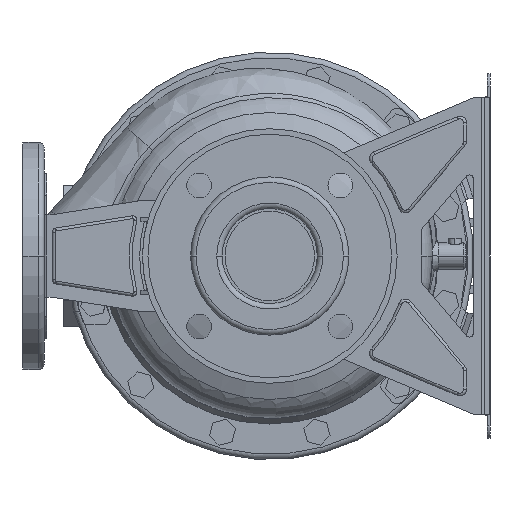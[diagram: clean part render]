
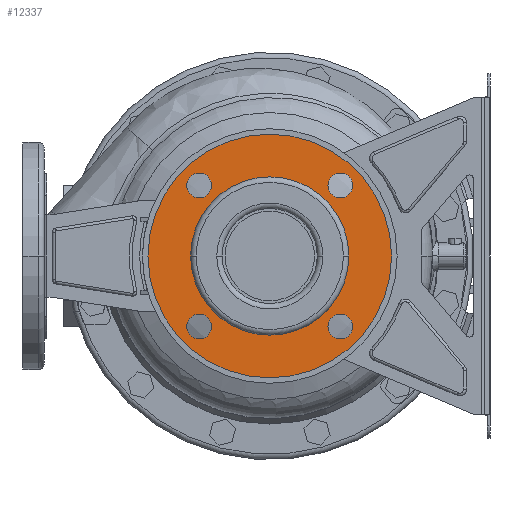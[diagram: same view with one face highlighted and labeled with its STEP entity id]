
A CAD part, left-side view. The second image highlights one B-rep face of the part: STEP entity #12337.
In plain terms, the highlighted planar face has unit normal (-1, 0, 0).
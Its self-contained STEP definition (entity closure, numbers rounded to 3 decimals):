
#11670=CARTESIAN_POINT('',(12.,0.,0.));
#11671=DIRECTION('',(-1.,0.,0.));
#11672=DIRECTION('',(0.,1.,0.));
#11673=AXIS2_PLACEMENT_3D('',#11670,#11671,#11672);
#11678=CARTESIAN_POINT('',(12.,0.,0.));
#11679=DIRECTION('',(1.,0.,0.));
#11680=DIRECTION('',(0.,1.,0.));
#11681=AXIS2_PLACEMENT_3D('',#11678,#11679,#11680);
#11686=CARTESIAN_POINT('',(12.,-51.265,51.265));
#11687=DIRECTION('',(1.,0.,0.));
#11688=DIRECTION('',(0.,1.,0.));
#11689=AXIS2_PLACEMENT_3D('',#11686,#11687,#11688);
#11694=CARTESIAN_POINT('',(12.,-51.265,51.265));
#11695=DIRECTION('',(1.,0.,0.));
#11696=DIRECTION('',(0.,-1.,0.));
#11697=AXIS2_PLACEMENT_3D('',#11694,#11695,#11696);
#11702=CARTESIAN_POINT('',(12.,-51.265,-51.265));
#11703=DIRECTION('',(1.,0.,0.));
#11704=DIRECTION('',(0.,0.,1.));
#11705=AXIS2_PLACEMENT_3D('',#11702,#11703,#11704);
#11710=CARTESIAN_POINT('',(12.,-51.265,-51.265));
#11711=DIRECTION('',(1.,0.,0.));
#11712=DIRECTION('',(0.,0.,-1.));
#11713=AXIS2_PLACEMENT_3D('',#11710,#11711,#11712);
#11718=CARTESIAN_POINT('',(12.,51.265,-51.265));
#11719=DIRECTION('',(1.,0.,0.));
#11720=DIRECTION('',(0.,-1.,0.));
#11721=AXIS2_PLACEMENT_3D('',#11718,#11719,#11720);
#11726=CARTESIAN_POINT('',(12.,51.265,-51.265));
#11727=DIRECTION('',(1.,0.,0.));
#11728=DIRECTION('',(0.,1.,0.));
#11729=AXIS2_PLACEMENT_3D('',#11726,#11727,#11728);
#11734=CARTESIAN_POINT('',(12.,51.265,51.265));
#11735=DIRECTION('',(1.,0.,0.));
#11736=DIRECTION('',(0.,0.,-1.));
#11737=AXIS2_PLACEMENT_3D('',#11734,#11735,#11736);
#11742=CARTESIAN_POINT('',(12.,51.265,51.265));
#11743=DIRECTION('',(1.,0.,0.));
#11744=DIRECTION('',(0.,0.,1.));
#11745=AXIS2_PLACEMENT_3D('',#11742,#11743,#11744);
#11750=CARTESIAN_POINT('',(12.,0.,0.));
#11751=DIRECTION('',(1.,0.,0.));
#11752=DIRECTION('',(0.,1.,0.));
#11753=AXIS2_PLACEMENT_3D('',#11750,#11751,#11752);
#11772=CARTESIAN_POINT('',(12.,0.,0.));
#11773=DIRECTION('',(-1.,0.,0.));
#11774=DIRECTION('',(0.,1.,0.));
#11775=AXIS2_PLACEMENT_3D('',#11772,#11773,#11774);
#11937=CARTESIAN_POINT('',(12.,88.5,0.));
#11939=VERTEX_POINT('',#11937);
#11940=CARTESIAN_POINT('',(12.,57.5,0.));
#11942=VERTEX_POINT('',#11940);
#11969=CARTESIAN_POINT('',(12.,-88.5,0.));
#11971=VERTEX_POINT('',#11969);
#11972=CARTESIAN_POINT('',(12.,-57.5,0.));
#11974=VERTEX_POINT('',#11972);
#11984=CARTESIAN_POINT('',(12.,-42.265,51.265));
#11985=CARTESIAN_POINT('',(12.,-60.265,51.265));
#11986=VERTEX_POINT('',#11984);
#11987=VERTEX_POINT('',#11985);
#11992=CARTESIAN_POINT('',(12.,-51.265,-42.265));
#11993=CARTESIAN_POINT('',(12.,-51.265,-60.265));
#11994=VERTEX_POINT('',#11992);
#11995=VERTEX_POINT('',#11993);
#12000=CARTESIAN_POINT('',(12.,42.265,-51.265));
#12001=CARTESIAN_POINT('',(12.,60.265,-51.265));
#12002=VERTEX_POINT('',#12000);
#12003=VERTEX_POINT('',#12001);
#12008=CARTESIAN_POINT('',(12.,51.265,42.265));
#12009=CARTESIAN_POINT('',(12.,51.265,60.265));
#12010=VERTEX_POINT('',#12008);
#12011=VERTEX_POINT('',#12009);
#12298=CARTESIAN_POINT('',(12.,0.,0.));
#12299=DIRECTION('',(1.,0.,0.));
#12300=DIRECTION('',(0.,-1.,0.));
#12301=AXIS2_PLACEMENT_3D('',#12298,#12299,#12300);
#12302=PLANE('',#12301);
#12303=ORIENTED_EDGE('',*,*,#12291,.F.);
#12304=ORIENTED_EDGE('',*,*,#12280,.T.);
#12305=EDGE_LOOP('',(#12303,#12304));
#12306=FACE_OUTER_BOUND('',#12305,.F.);
#12308=ORIENTED_EDGE('',*,*,#12307,.F.);
#12310=ORIENTED_EDGE('',*,*,#12309,.T.);
#12311=EDGE_LOOP('',(#12308,#12310));
#12312=FACE_BOUND('',#12311,.F.);
#12314=ORIENTED_EDGE('',*,*,#12313,.F.);
#12316=ORIENTED_EDGE('',*,*,#12315,.F.);
#12317=EDGE_LOOP('',(#12314,#12316));
#12318=FACE_BOUND('',#12317,.F.);
#12320=ORIENTED_EDGE('',*,*,#12319,.F.);
#12322=ORIENTED_EDGE('',*,*,#12321,.F.);
#12323=EDGE_LOOP('',(#12320,#12322));
#12324=FACE_BOUND('',#12323,.F.);
#12326=ORIENTED_EDGE('',*,*,#12325,.F.);
#12328=ORIENTED_EDGE('',*,*,#12327,.F.);
#12329=EDGE_LOOP('',(#12326,#12328));
#12330=FACE_BOUND('',#12329,.F.);
#12332=ORIENTED_EDGE('',*,*,#12331,.F.);
#12334=ORIENTED_EDGE('',*,*,#12333,.F.);
#12335=EDGE_LOOP('',(#12332,#12334));
#12336=FACE_BOUND('',#12335,.F.);
#11674=CIRCLE('',#11673,88.5);
#11682=CIRCLE('',#11681,88.5);
#11690=CIRCLE('',#11689,9.);
#11698=CIRCLE('',#11697,9.);
#11706=CIRCLE('',#11705,9.);
#11714=CIRCLE('',#11713,9.);
#11722=CIRCLE('',#11721,9.);
#11730=CIRCLE('',#11729,9.);
#11738=CIRCLE('',#11737,9.);
#11746=CIRCLE('',#11745,9.);
#11754=CIRCLE('',#11753,57.5);
#11776=CIRCLE('',#11775,57.5);
#12280=EDGE_CURVE('',#11939,#11971,#11682,.T.);
#12291=EDGE_CURVE('',#11939,#11971,#11674,.T.);
#12307=EDGE_CURVE('',#11942,#11974,#11754,.T.);
#12309=EDGE_CURVE('',#11942,#11974,#11776,.T.);
#12313=EDGE_CURVE('',#11986,#11987,#11690,.T.);
#12315=EDGE_CURVE('',#11987,#11986,#11698,.T.);
#12319=EDGE_CURVE('',#11994,#11995,#11706,.T.);
#12321=EDGE_CURVE('',#11995,#11994,#11714,.T.);
#12325=EDGE_CURVE('',#12002,#12003,#11722,.T.);
#12327=EDGE_CURVE('',#12003,#12002,#11730,.T.);
#12331=EDGE_CURVE('',#12010,#12011,#11738,.T.);
#12333=EDGE_CURVE('',#12011,#12010,#11746,.T.);
#12337=ADVANCED_FACE('',(#12306,#12312,#12318,#12324,#12330,#12336),#12302,.F.);
